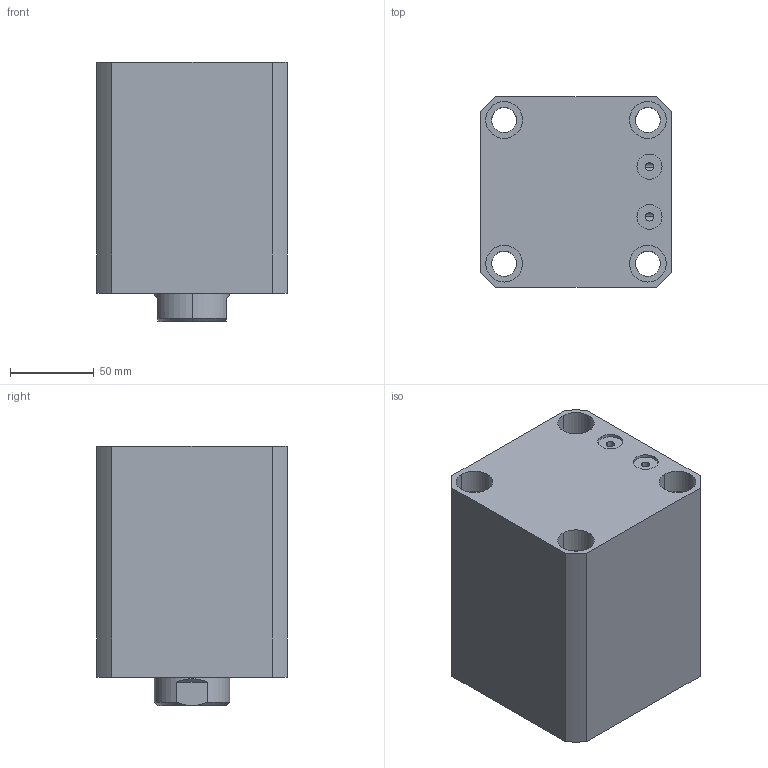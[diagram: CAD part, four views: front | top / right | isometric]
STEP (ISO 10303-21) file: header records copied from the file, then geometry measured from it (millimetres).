
FILE_DESCRIPTION (( 'STEP AP214' ), '1' );
FILE_NAME ('chtb-sdmb80x60n_asm.STEP', '2018-05-25T04:52:59', ( 'Windows' ), ( 'Microsoft' ), 'SwSTEP 2.0', 'SolidWorks 2015', '' );
FILE_SCHEMA (( 'AUTOMOTIVE_DESIGN' ));
Length unit declared in the file: millimetre
Products named in the file (4): CHTB-SD80X60NHSG; CHTB-SD80QG; chtb-sdmb80x60n_asm; CHTB-SDMB80X60NBT
Assembly tree (3 placements, depth 2):
  chtb-sdmb80x60n_asm
    CHTB-SD80QG
    CHTB-SD80X60NHSG
    CHTB-SDMB80X60NBT
Bounding box: 114 x 114 x 155 mm (x, y, z)
Volume: 1430103.7 mm3; surface area: 211712.9 mm2
Topology: 3 solids, 3 shells, 190 faces, 516 edges, 345 vertices
Faces by surface type: cylinder 107, plane 35, torus 18, cone 16, bspline 14
Entity records: 15174 total; most frequent: CARTESIAN_POINT 10467, ORIENTED_EDGE 1020, DIRECTION 879, EDGE_CURVE 510, AXIS2_PLACEMENT_3D 368, VERTEX_POINT 345, EDGE_LOOP 227, FACE_OUTER_BOUND 190
